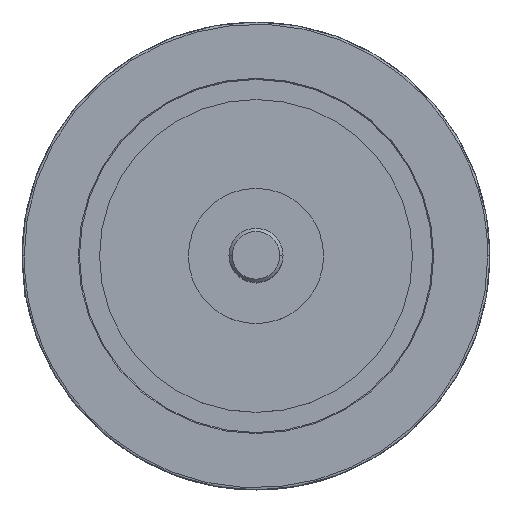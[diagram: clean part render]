
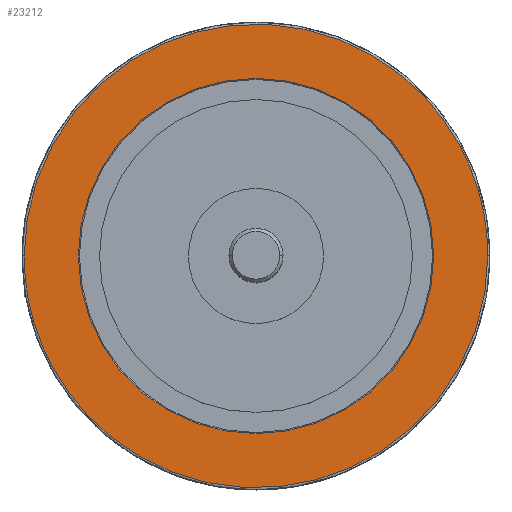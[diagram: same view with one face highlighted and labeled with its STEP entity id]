
A CAD part, top view. The second image highlights one B-rep face of the part: STEP entity #23212.
In plain terms, the highlighted planar face has unit normal (0, 0, 1).
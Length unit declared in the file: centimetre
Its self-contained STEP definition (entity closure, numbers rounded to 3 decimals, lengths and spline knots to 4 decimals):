
#1186 = ORIENTED_EDGE ( 'NONE', *, *, #14405, .F. ) ;
#1352 = ORIENTED_EDGE ( 'NONE', *, *, #46790, .T. ) ;
#1554 = ORIENTED_EDGE ( 'NONE', *, *, #5714, .F. ) ;
#1597 = ORIENTED_EDGE ( 'NONE', *, *, #14585, .T. ) ;
#2902 = AXIS2_PLACEMENT_3D ( 'NONE', #36304, #36305, #36306 ) ;
#4491 = CIRCLE ( 'NONE', #2902, 2.0828 ) ;
#5714 = EDGE_CURVE ( 'NONE', #33549, #52932, #29060, .T. ) ;
#6626 = CARTESIAN_POINT ( 'NONE',  ( -2.0701, 0., 0. ) ) ;
#6632 = PLANE ( 'NONE',  #33064 ) ;
#6634 = DIRECTION ( 'NONE',  ( 0., 0., 1. ) ) ;
#6635 = DIRECTION ( 'NONE',  ( 1., 0., 0. ) ) ;
#8643 = EDGE_LOOP ( 'NONE', ( #1186, #1554 ) ) ;
#9386 = EDGE_LOOP ( 'NONE', ( #1597, #1352 ) ) ;
#10473 = CIRCLE ( 'NONE', #41824, 2.0828 ) ;
#13276 =( BOUNDED_CURVE ( )  B_SPLINE_CURVE ( 3, ( #25429, #25303, #25054, #24999 ),
 .UNSPECIFIED., .F., .F. ) 
 B_SPLINE_CURVE_WITH_KNOTS ( ( 4, 4 ),
 ( 0., 0.5 ),
 .UNSPECIFIED. ) 
 CURVE ( )  GEOMETRIC_REPRESENTATION_ITEM ( )  RATIONAL_B_SPLINE_CURVE ( ( 1., 0.333, 0.333, 1. ) ) 
 REPRESENTATION_ITEM ( '' )  );
#14405 = EDGE_CURVE ( 'NONE', #52932, #33549, #13276, .T. ) ;
#14585 = EDGE_CURVE ( 'NONE', #53732, #54229, #10473, .T. ) ;
#23212 = ADVANCED_FACE ( 'NONE', ( #29732, #29937 ), #6632, .T. ) ;
#24999 = CARTESIAN_POINT ( 'NONE',  ( 2.7178, 0., 0. ) ) ;
#25054 = CARTESIAN_POINT ( 'NONE',  ( 2.7178, 5.4356, 0. ) ) ;
#25303 = CARTESIAN_POINT ( 'NONE',  ( -2.7178, 5.4356, 0. ) ) ;
#25429 = CARTESIAN_POINT ( 'NONE',  ( -2.7178, 0., 0. ) ) ;
#29060 =( BOUNDED_CURVE ( )  B_SPLINE_CURVE ( 3, ( #35745, #35746, #36181, #35271 ),
 .UNSPECIFIED., .F., .T. ) 
 B_SPLINE_CURVE_WITH_KNOTS ( ( 4, 4 ),
 ( 0.5, 1. ),
 .UNSPECIFIED. ) 
 CURVE ( )  GEOMETRIC_REPRESENTATION_ITEM ( )  RATIONAL_B_SPLINE_CURVE ( ( 1., 0.333, 0.333, 1. ) ) 
 REPRESENTATION_ITEM ( '' )  );
#29732 = FACE_OUTER_BOUND ( 'NONE', #8643, .T. ) ;
#29937 = FACE_BOUND ( 'NONE', #9386, .T. ) ;
#33064 = AXIS2_PLACEMENT_3D ( 'NONE', #6626, #6634, #6635 ) ;
#33549 = VERTEX_POINT ( 'NONE', #45177 ) ;
#35271 = CARTESIAN_POINT ( 'NONE',  ( -2.7178, 0., 0. ) ) ;
#35745 = CARTESIAN_POINT ( 'NONE',  ( 2.7178, 0., 0. ) ) ;
#35746 = CARTESIAN_POINT ( 'NONE',  ( 2.7178, -5.4356, 0. ) ) ;
#36181 = CARTESIAN_POINT ( 'NONE',  ( -2.7178, -5.4356, 0. ) ) ;
#36304 = CARTESIAN_POINT ( 'NONE',  ( 0., 0., 0. ) ) ;
#36305 = DIRECTION ( 'NONE',  ( 0., 0., -1. ) ) ;
#36306 = DIRECTION ( 'NONE',  ( 1., 0., 0. ) ) ;
#36557 = CARTESIAN_POINT ( 'NONE',  ( -2.7178, 0., 0. ) ) ;
#36746 = CARTESIAN_POINT ( 'NONE',  ( 2.0828, 0., 0. ) ) ;
#36871 = CARTESIAN_POINT ( 'NONE',  ( -2.0828, 0., 0. ) ) ;
#41824 = AXIS2_PLACEMENT_3D ( 'NONE', #48309, #46956, #48233 ) ;
#45177 = CARTESIAN_POINT ( 'NONE',  ( 2.7178, 0., 0. ) ) ;
#46790 = EDGE_CURVE ( 'NONE', #54229, #53732, #4491, .T. ) ;
#46956 = DIRECTION ( 'NONE',  ( 0., 0., -1. ) ) ;
#48233 = DIRECTION ( 'NONE',  ( 1., 0., 0. ) ) ;
#48309 = CARTESIAN_POINT ( 'NONE',  ( 0., 0., 0. ) ) ;
#52932 = VERTEX_POINT ( 'NONE', #36557 ) ;
#53732 = VERTEX_POINT ( 'NONE', #36746 ) ;
#54229 = VERTEX_POINT ( 'NONE', #36871 ) ;
